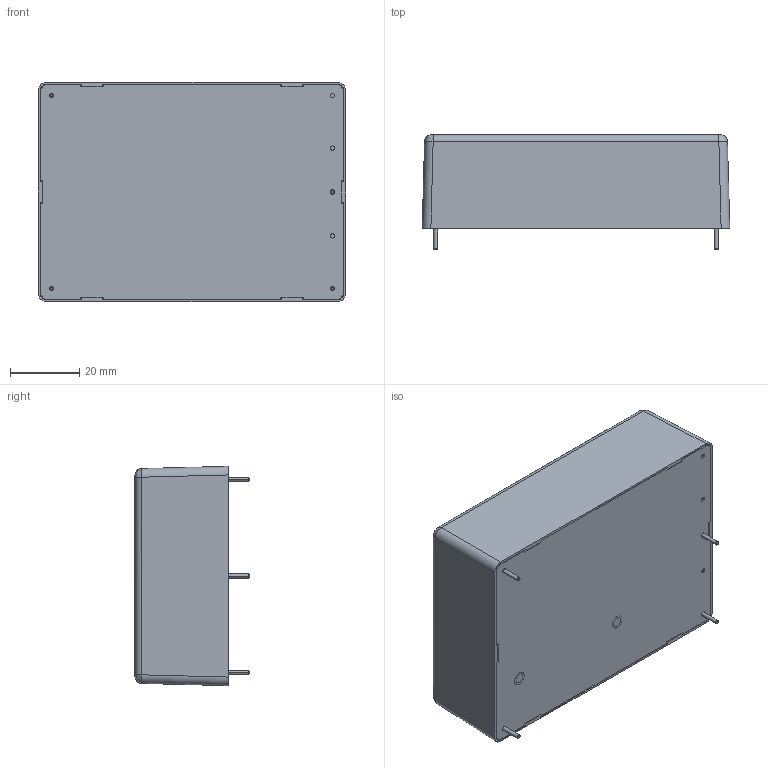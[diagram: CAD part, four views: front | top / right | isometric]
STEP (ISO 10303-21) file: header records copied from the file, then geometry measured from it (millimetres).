
FILE_DESCRIPTION (( 'STEP AP214' ), '1' );
FILE_NAME ('KMS60A-12.STEP', '2021-09-03T07:19:17', ( '' ), ( '' ), 'SwSTEP 2.0', 'SolidWorks 2017', '' );
FILE_SCHEMA (( 'AUTOMOTIVE_DESIGN' ));
Length unit declared in the file: millimetre
Products named in the file (1): KMS60A-12
Bounding box: 89 x 33 x 63.5 mm (x, y, z)
Volume: 18281 mm3; surface area: 38574.1 mm2
Topology: 36 solids, 36 shells, 1080 faces, 2792 edges, 1838 vertices
Faces by surface type: plane 628, bspline 348, cylinder 82, cone 22
Entity records: 35591 total; most frequent: CARTESIAN_POINT 11087, ORIENTED_EDGE 5584, DIRECTION 3740, EDGE_CURVE 2792, LINE 1918, VECTOR 1918, VERTEX_POINT 1838, EDGE_LOOP 1174
